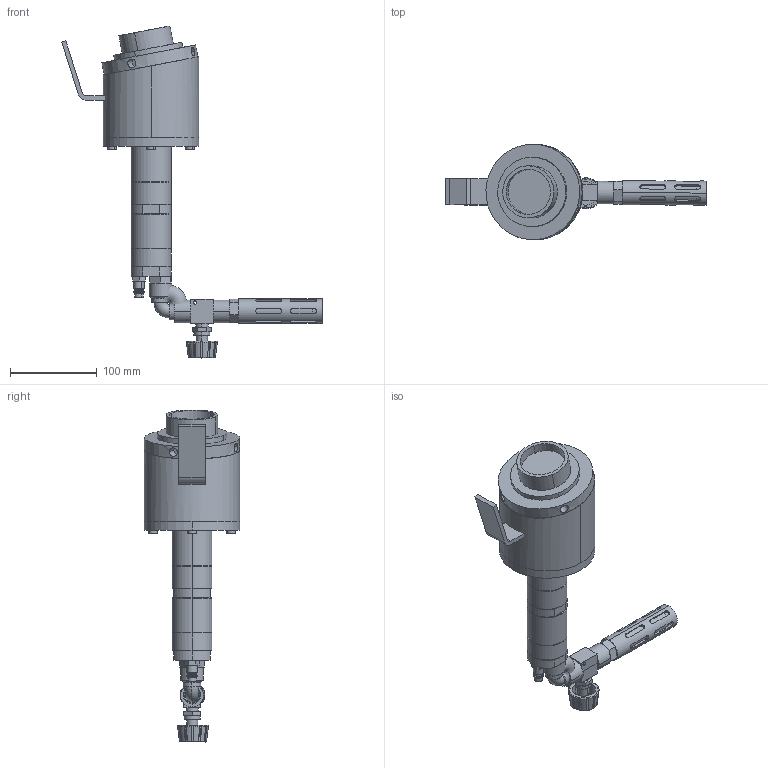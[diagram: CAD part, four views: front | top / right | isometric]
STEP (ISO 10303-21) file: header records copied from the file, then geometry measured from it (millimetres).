
FILE_DESCRIPTION (( 'STEP AP214' ), '1' );
FILE_NAME ('AFR30V.STEP', '2019-09-05T12:28:46', ( '' ), ( '' ), 'SwSTEP 2.0', 'SolidWorks 2018', '' );
FILE_SCHEMA (( 'AUTOMOTIVE_DESIGN' ));
Length unit declared in the file: millimetre
Products named in the file (14): PM64V; Schalldämpfer Deckel V3; Vlies; Schalli; Stellrad V3; V3; Doppelnippel PM64; Winkel V3; Stecknippel PLM; AFR30V; Schrauben; AFR Gewindering; AFR Aufsatz
Assembly tree (16 placements, depth 3):
  AFR30V
    PM64V
      Stecknippel PLM
      Winkel V3
      Doppelnippel PM64
      V3
      Stellrad V3
      Schalli
      Vlies
      Schalldämpfer Deckel V3
    AFR Aufsatz
    AFR Gewindering
    Schrauben  x4
    PM64V
Bounding box: 300.06 x 110 x 382.6 mm (x, y, z)
Volume: 1356792.2 mm3; surface area: 212561.3 mm2
Topology: 16 solids, 16 shells, 514 faces, 1212 edges, 778 vertices
Faces by surface type: plane 258, cylinder 200, cone 44, torus 12
Entity records: 16607 total; most frequent: CARTESIAN_POINT 4806, DIRECTION 2302, ORIENTED_EDGE 2236, EDGE_CURVE 1118, AXIS2_PLACEMENT_3D 874, VERTEX_POINT 718, EDGE_LOOP 564, LINE 554
